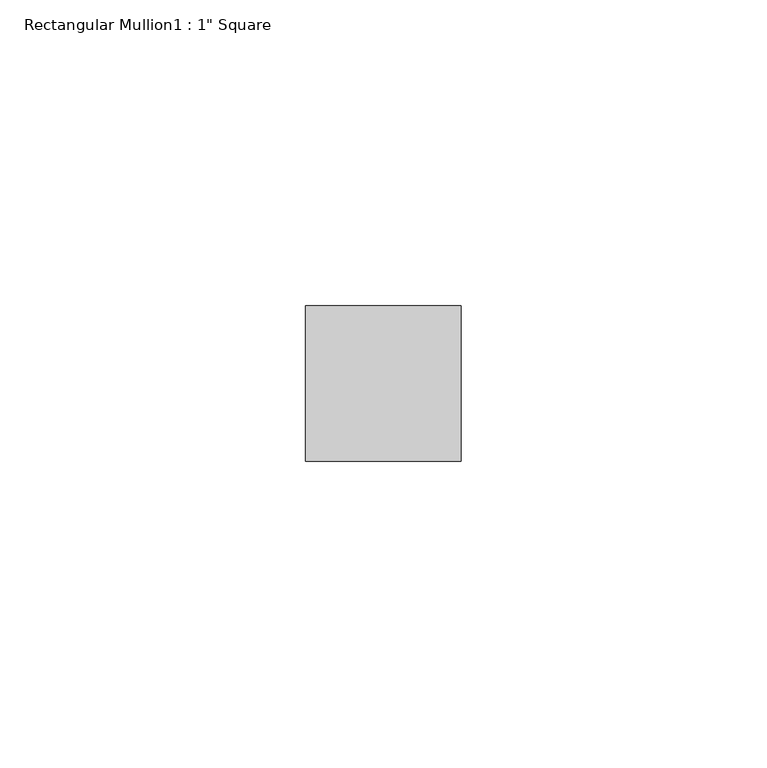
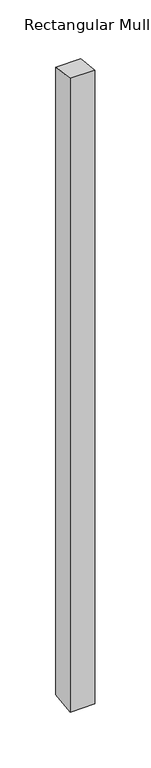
"""IFC4 building model written with IfcOpenShell, lengths in millimetres: member geometry."""

from ifc_helpers import new_model, si_unit, frame, origin, place, context, project, spatial, polyline, outline, extrude, source, transform, mapped, element, save


def member_096b8a9b(model_context):
    return source(origin(), model_context, "Body", "SweptSolid", [
        extrude(outline(polyline([(-44.45, 5.6588474), (-19.05, 2.4252203), (-19.05, -682.4654832), (-44.45, -685.6991103), (-44.45, 5.6588474)])), frame((-12.7, 0.0, 0.0), z_axis=(1.0, 0.0, 0.0), x_axis=(0.0, 1.0, 0.0)), (0.0, 0.0, 1.0), 25.4),
    ])


if __name__ == "__main__":
    model = new_model("IFC4")
    model_context = context("Model", 3, world=origin())
    ifc_project = project(units=[si_unit("LENGTHUNIT", "METRE", prefix="MILLI")], contexts=[model_context])
    site = spatial("IfcSite", under=ifc_project)
    building = spatial("IfcBuilding", under=site)
    placement = place(None, origin())
    member_shape = member_096b8a9b(model_context)
    element("IfcMember", 1, ObjectType="Rectangular Mullion1 : 1\" Square", at=placement, inside=building, context=model_context, shape_type="MappedRepresentation", body=[
        mapped(member_shape, transform((0.0, 0.0, 0.0), x_axis=(1.0, 0.0, 0.0), y_axis=(0.0, 1.0, 0.0), z_axis=(0.0, 0.0, 1.0))),
    ])
    save(model, "model.ifc")
